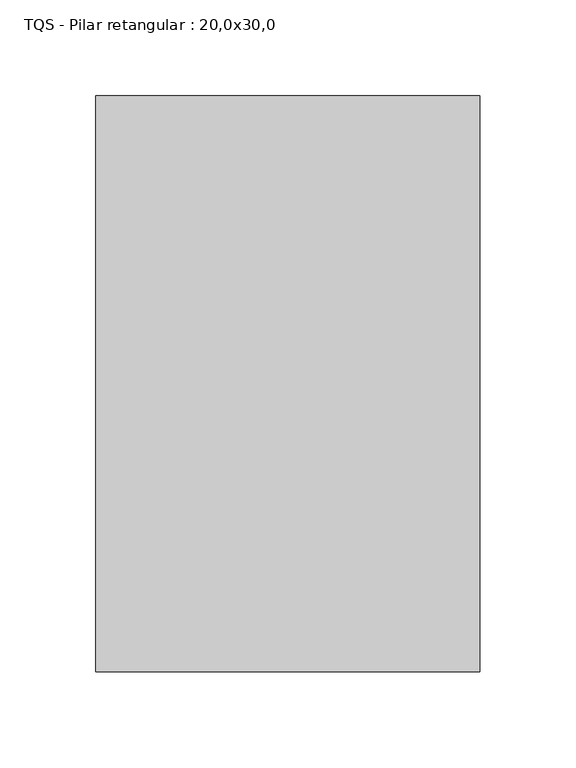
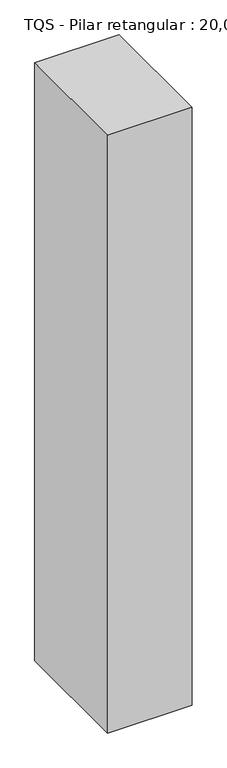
"""IFC4 building model written with IfcOpenShell, lengths in millimetres: column geometry, TQS - Pilar retangular : 20,0x30,0."""

import ifcopenshell
import ifcopenshell.guid

model = None  # the IFC model being written
_history = None  # IfcOwnerHistory: only IFC2X3 demands one
_inside = {}  # id of a spatial element -> (the spatial element, [elements in it])
_under = {}  # id of a project, library or spatial element -> (it, [spatial elements below it])
_declared = {}  # id of a project -> (the project, [libraries it declares])
_typed = {}  # id of a type object -> (the type object, [elements of that type])
_made_of = {}  # id of a material, layer set ... -> (it, [elements and type objects made of it])


def new_model(schema):
    """Start an empty IFC model of exactly this schema.

    Asked for "IFC4X3", IfcOpenShell would pick the latest addendum, in which some entities
    have other attributes; the version numbers below select the first issue.
    IFC2X3 requires an IfcOwnerHistory on every rooted entity: one is made here for all.
    """
    global model, _history
    if schema == "IFC4X3":
        model = ifcopenshell.file(schema_version=(4, 3, 0, 0))
    else:
        model = ifcopenshell.file(schema=schema)
    _inside.clear()
    _under.clear()
    _declared.clear()
    _typed.clear()
    _made_of.clear()
    _history = None
    if model.schema == "IFC2X3":
        org = make("IfcOrganization", Name="unknown")
        user = make(
            "IfcPersonAndOrganization",
            ThePerson=make("IfcPerson", FamilyName="unknown"),
            TheOrganization=org,
        )
        app = make(
            "IfcApplication",
            ApplicationDeveloper=org,
            Version="unknown",
            ApplicationFullName="unknown",
            ApplicationIdentifier="unknown",
        )
        _history = make(
            "IfcOwnerHistory",
            OwningUser=user,
            OwningApplication=app,
            ChangeAction="ADDED",
            CreationDate=0,
        )
    return model


def make(cls, **values):
    """One entity of the class cls with the attributes given. An attribute that is None is left unset."""
    return model.create_entity(
        cls, **{name: value for name, value in values.items() if value is not None}
    )


def rooted(cls, **values):
    """An entity with a GlobalId (a new one), such as an element, a storey or a relation."""
    return make(cls, GlobalId=ifcopenshell.guid.new(), OwnerHistory=_history, **values)


def si_unit(unit_type, name, prefix=None):
    """IfcSIUnit, for example si_unit("LENGTHUNIT", "METRE", prefix="MILLI")."""
    return make("IfcSIUnit", UnitType=unit_type, Prefix=prefix, Name=name)


def assignment(units):
    """IfcUnitAssignment: the units of a project."""
    return None if units is None else make("IfcUnitAssignment", Units=units)


def point(xyz):
    """IfcCartesianPoint."""
    return None if xyz is None else make("IfcCartesianPoint", Coordinates=xyz)


def direction(xyz):
    """IfcDirection."""
    return None if xyz is None else make("IfcDirection", DirectionRatios=xyz)


def frame(location, z_axis=None, x_axis=None):
    """IfcAxis2Placement3D, a coordinate frame: its origin and axes. An axis left out is left unset."""
    return make(
        "IfcAxis2Placement3D",
        Location=point(location),
        Axis=direction(z_axis),
        RefDirection=direction(x_axis),
    )


def origin():
    """The frame at (0, 0, 0) with its axes left unset."""
    return frame((0.0, 0.0, 0.0))


def origin_with_axes():
    """The frame at (0, 0, 0) with the z axis (0, 0, 1) and the x axis (1, 0, 0) written out."""
    return frame((0.0, 0.0, 0.0), z_axis=(0.0, 0.0, 1.0), x_axis=(1.0, 0.0, 0.0))


def place(relative_to, where):
    """IfcLocalPlacement: puts the frame where relative to a parent placement (None: the world)."""
    return make(
        "IfcLocalPlacement", PlacementRelTo=relative_to, RelativePlacement=where
    )


def context(
    kind, dimensions, precision=None, world=None, true_north=None, identifier=None
):
    """IfcGeometricRepresentationContext, for example the 3D "Model" context."""
    return make(
        "IfcGeometricRepresentationContext",
        ContextIdentifier=identifier,
        ContextType=kind,
        CoordinateSpaceDimension=dimensions,
        Precision=precision,
        WorldCoordinateSystem=world,
        TrueNorth=true_north,
    )


def project(units=None, contexts=None):
    """IfcProject with its units and contexts."""
    return rooted(
        "IfcProject",
        Name="project",
        RepresentationContexts=contexts,
        UnitsInContext=assignment(units),
    )


def spatial(cls, under=None, at=None, **own):
    """A site, building, storey or space (cls), placed at a placement, below another one or the project."""
    s = rooted(cls, ObjectPlacement=at, **own)
    if under is not None:
        _under.setdefault(under.id(), (under, []))[1].append(s)
    return s


def polyline(points):
    """IfcPolyline through the points."""
    return make("IfcPolyline", Points=[point(p) for p in points])


def outline(outer, holes=None, kind="AREA"):
    """IfcArbitraryClosedProfileDef: a profile drawn as a closed curve; with holes, ...WithVoids."""
    if holes is None:
        return make("IfcArbitraryClosedProfileDef", ProfileType=kind, OuterCurve=outer)
    return make(
        "IfcArbitraryProfileDefWithVoids",
        ProfileType=kind,
        OuterCurve=outer,
        InnerCurves=holes,
    )


def extrude(swept, where, along, depth):
    """IfcExtrudedAreaSolid: the profile swept, set in the frame where, extruded along a direction by depth."""
    return make(
        "IfcExtrudedAreaSolid",
        SweptArea=swept,
        Position=where,
        ExtrudedDirection=direction(along),
        Depth=depth,
    )


def shape(context_of_items, identifier, shape_type, items):
    """IfcShapeRepresentation: the items that make up one representation, for example the "Body"."""
    return make(
        "IfcShapeRepresentation",
        ContextOfItems=context_of_items,
        RepresentationIdentifier=identifier,
        RepresentationType=shape_type,
        Items=items,
    )


def source(mapping_origin, context_of_items, identifier, shape_type, items):
    """IfcRepresentationMap: a shape defined once, which mapped items show again and again."""
    return make(
        "IfcRepresentationMap",
        MappingOrigin=mapping_origin,
        MappedRepresentation=shape(context_of_items, identifier, shape_type, items),
    )


def transform(
    local_origin,
    x_axis=None,
    y_axis=None,
    z_axis=None,
    scale=None,
    scale2=None,
    scale3=None,
    uniform=True,
):
    """IfcCartesianTransformationOperator3D, or its non-uniform kind. x_axis, y_axis, z_axis: its Axis1, 2, 3."""
    if uniform:
        return make(
            "IfcCartesianTransformationOperator3D",
            Axis1=direction(x_axis),
            Axis2=direction(y_axis),
            LocalOrigin=point(local_origin),
            Scale=scale,
            Axis3=direction(z_axis),
        )
    return make(
        "IfcCartesianTransformationOperator3DnonUniform",
        Axis1=direction(x_axis),
        Axis2=direction(y_axis),
        LocalOrigin=point(local_origin),
        Scale=scale,
        Axis3=direction(z_axis),
        Scale2=scale2,
        Scale3=scale3,
    )


def mapped(mapping_source, mapping_target):
    """IfcMappedItem: shows the shape of a source again, moved by a transform."""
    return make(
        "IfcMappedItem", MappingSource=mapping_source, MappingTarget=mapping_target
    )


def made_of(thing, what):
    """Note that an element or type object is made of a material, layer set ...; save() writes the relation."""
    if what is not None:
        _made_of.setdefault(what.id(), (what, []))[1].append(thing)
    return thing


def element(
    cls,
    number,
    at=None,
    inside=None,
    cuts=None,
    type_object=None,
    material=None,
    context=None,
    identifier="Body",
    shape_type=None,
    held_by="IfcProductDefinitionShape",
    body=None,
    shapes=None,
    **own,
):
    """One element of the class cls, such as IfcWall. Its Tag is "e" and its number.

    at: its placement. inside: the storey or other place that contains it. cuts: it is an
    opening in that element (IfcRelVoidsElement). A single representation is given by context,
    identifier, shape_type and body (its items); several are given by shapes. held_by: the class
    of the entity that holds the representations. save() writes the other relations.
    """
    e = rooted(cls, Tag="e%d" % number, ObjectPlacement=at, **own)
    if body is not None:
        shapes = [shape(context, identifier, shape_type, body)]
    if shapes is not None:
        e.Representation = make(held_by, Representations=shapes)
    if inside is not None:
        _inside.setdefault(inside.id(), (inside, []))[1].append(e)
    if cuts is not None:
        rooted(
            "IfcRelVoidsElement", RelatingBuildingElement=cuts, RelatedOpeningElement=e
        )
    if type_object is not None:
        _typed.setdefault(type_object.id(), (type_object, []))[1].append(e)
    return made_of(e, material)


def aggregate(whole, parts):
    """IfcRelAggregates: a whole, such as a stair, and the parts it consists of."""
    return rooted("IfcRelAggregates", RelatingObject=whole, RelatedObjects=parts)


def save(model, path):
    """Write the relations noted so far, then the file.

    IfcRelAggregates (storeys below a building ...), IfcRelContainedInSpatialStructure (elements
    in a storey), IfcRelDefinesByType, IfcRelAssociatesMaterial and IfcRelDeclares: one each for
    every whole, place, type object, material and project.
    """
    for whole, parts in _under.values():
        aggregate(whole, parts)
    for where, things in _inside.values():
        rooted(
            "IfcRelContainedInSpatialStructure",
            RelatedElements=things,
            RelatingStructure=where,
        )
    for kind, things in _typed.values():
        rooted("IfcRelDefinesByType", RelatedObjects=things, RelatingType=kind)
    for what, things in _made_of.values():
        rooted("IfcRelAssociatesMaterial", RelatedObjects=things, RelatingMaterial=what)
    for by, libraries in _declared.values():
        rooted("IfcRelDeclares", RelatingContext=by, RelatedDefinitions=libraries)
    model.write(path)


def tqs_pilar_retangular_20_0x30_0_f38474bd(model_context):
    return source(origin(), model_context, "Body", "SweptSolid", [
        extrude(outline(polyline([(100.0, 150.0), (100.0, -150.0), (-100.0, -150.0), (-100.0, 150.0), (100.0, 150.0)])), origin_with_axes(), (0.0, 0.0, 1.0), 1500.0),
    ])


if __name__ == "__main__":
    model = new_model("IFC4")
    model_context = context("Model", 3, world=origin())
    ifc_project = project(units=[si_unit("LENGTHUNIT", "METRE", prefix="MILLI")], contexts=[model_context])
    site = spatial("IfcSite", under=ifc_project)
    building = spatial("IfcBuilding", under=site)
    placement = place(None, origin())
    tqs_pilar_retangular_20_0x30_0_shape = tqs_pilar_retangular_20_0x30_0_f38474bd(model_context)
    element("IfcColumn", 1, ObjectType="TQS - Pilar retangular : 20,0x30,0", at=placement, inside=building, context=model_context, shape_type="MappedRepresentation", body=[
        mapped(tqs_pilar_retangular_20_0x30_0_shape, transform((0.0, 0.0, 0.0), x_axis=(1.0, 0.0, 0.0), y_axis=(0.0, 1.0, 0.0), z_axis=(0.0, 0.0, 1.0))),
    ])
    save(model, "model.ifc")
